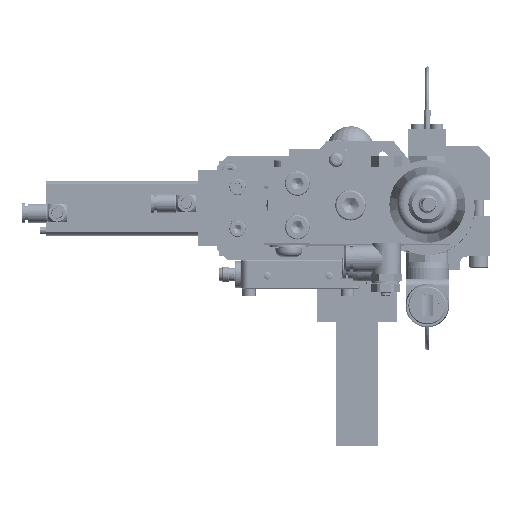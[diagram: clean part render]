
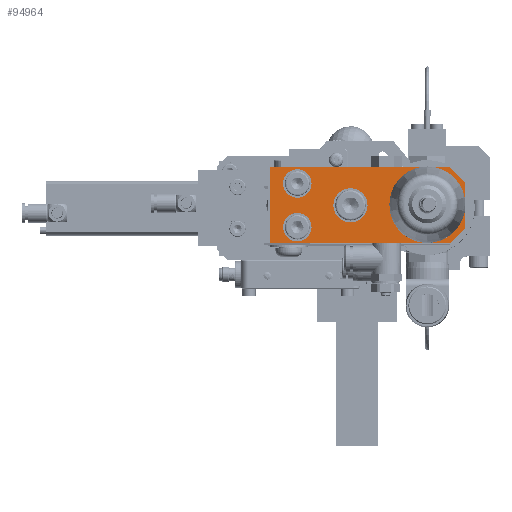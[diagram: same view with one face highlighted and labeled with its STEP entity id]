
A CAD part, top view. The second image highlights one B-rep face of the part: STEP entity #94964.
In plain terms, the highlighted planar face has unit normal (0, 0, 1).
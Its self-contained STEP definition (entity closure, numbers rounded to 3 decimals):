
#5670=FACE_BOUND('',#19369,.T.);
#5671=FACE_BOUND('',#19370,.T.);
#5672=FACE_BOUND('',#19371,.T.);
#5673=FACE_BOUND('',#19372,.T.);
#6317=CIRCLE('',#97334,15.959);
#6319=CIRCLE('',#97336,15.959);
#6324=CIRCLE('',#97344,7.5);
#6325=CIRCLE('',#97345,7.5);
#6330=CIRCLE('',#97352,7.5);
#6331=CIRCLE('',#97353,7.5);
#6336=CIRCLE('',#97360,9.);
#6337=CIRCLE('',#97361,9.);
#8407=CIRCLE('',#102037,18.);
#8408=CIRCLE('',#102038,18.);
#8409=CIRCLE('',#102039,18.);
#13849=FACE_OUTER_BOUND('',#19368,.T.);
#19368=EDGE_LOOP('',(#77806,#77807,#77808,#77809,#77810,#77811));
#19369=EDGE_LOOP('',(#77812,#77813));
#19370=EDGE_LOOP('',(#77814,#77815));
#19371=EDGE_LOOP('',(#77816,#77817));
#19372=EDGE_LOOP('',(#77818,#77819,#77820,#77821,#77822,#77823,#77824,#77825,
#77826));
#20838=LINE('',#129238,#27540);
#20844=LINE('',#129263,#27546);
#20864=LINE('',#129303,#27566);
#25777=LINE('',#311383,#32479);
#25781=LINE('',#311390,#32483);
#25783=LINE('',#311393,#32485);
#26207=LINE('',#314383,#32909);
#26208=LINE('',#314386,#32910);
#26209=LINE('',#314388,#32911);
#26210=LINE('',#314393,#32912);
#27540=VECTOR('',#104932,10.);
#27546=VECTOR('',#104954,10.);
#27566=VECTOR('',#104986,10.);
#32479=VECTOR('',#119953,10.);
#32483=VECTOR('',#119959,10.);
#32485=VECTOR('',#119963,10.);
#32909=VECTOR('',#121489,10.);
#32910=VECTOR('',#121492,10.);
#32911=VECTOR('',#121493,10.);
#32912=VECTOR('',#121498,10.);
#34354=VERTEX_POINT('',#129235);
#34355=VERTEX_POINT('',#129237);
#34366=VERTEX_POINT('',#129262);
#34380=VERTEX_POINT('',#129302);
#36493=VERTEX_POINT('',#291577);
#36494=VERTEX_POINT('',#291579);
#36495=VERTEX_POINT('',#291581);
#36496=VERTEX_POINT('',#291583);
#36507=VERTEX_POINT('',#291609);
#36508=VERTEX_POINT('',#291610);
#36513=VERTEX_POINT('',#291624);
#36514=VERTEX_POINT('',#291625);
#36519=VERTEX_POINT('',#291639);
#36520=VERTEX_POINT('',#291640);
#40751=VERTEX_POINT('',#311382);
#40753=VERTEX_POINT('',#311387);
#41189=VERTEX_POINT('',#314382);
#41190=VERTEX_POINT('',#314384);
#41191=VERTEX_POINT('',#314387);
#41192=VERTEX_POINT('',#314389);
#41193=VERTEX_POINT('',#314391);
#43511=EDGE_CURVE('',#34354,#34355,#20838,.T.);
#43523=EDGE_CURVE('',#34355,#34366,#20844,.T.);
#43543=EDGE_CURVE('',#34366,#34380,#20864,.T.);
#46636=EDGE_CURVE('',#36494,#36493,#6317,.T.);
#46638=EDGE_CURVE('',#36496,#36495,#6319,.T.);
#46650=EDGE_CURVE('',#36507,#36508,#6324,.T.);
#46651=EDGE_CURVE('',#36508,#36507,#6325,.T.);
#46657=EDGE_CURVE('',#36513,#36514,#6330,.T.);
#46658=EDGE_CURVE('',#36514,#36513,#6331,.T.);
#46664=EDGE_CURVE('',#36519,#36520,#6336,.T.);
#46665=EDGE_CURVE('',#36520,#36519,#6337,.T.);
#53064=EDGE_CURVE('',#34380,#40751,#25777,.T.);
#53068=EDGE_CURVE('',#40751,#40753,#25781,.T.);
#53070=EDGE_CURVE('',#40753,#34354,#25783,.T.);
#53796=EDGE_CURVE('',#36495,#41189,#26207,.T.);
#53797=EDGE_CURVE('',#41189,#41190,#8407,.T.);
#53798=EDGE_CURVE('',#41190,#36494,#26208,.T.);
#53799=EDGE_CURVE('',#36493,#41191,#26209,.T.);
#53800=EDGE_CURVE('',#41191,#41192,#8408,.T.);
#53801=EDGE_CURVE('',#41192,#41193,#8409,.T.);
#53802=EDGE_CURVE('',#41193,#36496,#26210,.T.);
#77806=ORIENTED_EDGE('',*,*,#53064,.F.);
#77807=ORIENTED_EDGE('',*,*,#43543,.F.);
#77808=ORIENTED_EDGE('',*,*,#43523,.F.);
#77809=ORIENTED_EDGE('',*,*,#43511,.F.);
#77810=ORIENTED_EDGE('',*,*,#53070,.F.);
#77811=ORIENTED_EDGE('',*,*,#53068,.F.);
#77812=ORIENTED_EDGE('',*,*,#46664,.T.);
#77813=ORIENTED_EDGE('',*,*,#46665,.T.);
#77814=ORIENTED_EDGE('',*,*,#46657,.T.);
#77815=ORIENTED_EDGE('',*,*,#46658,.T.);
#77816=ORIENTED_EDGE('',*,*,#46650,.T.);
#77817=ORIENTED_EDGE('',*,*,#46651,.T.);
#77818=ORIENTED_EDGE('',*,*,#53796,.T.);
#77819=ORIENTED_EDGE('',*,*,#53797,.T.);
#77820=ORIENTED_EDGE('',*,*,#53798,.T.);
#77821=ORIENTED_EDGE('',*,*,#46636,.T.);
#77822=ORIENTED_EDGE('',*,*,#53799,.T.);
#77823=ORIENTED_EDGE('',*,*,#53800,.T.);
#77824=ORIENTED_EDGE('',*,*,#53801,.T.);
#77825=ORIENTED_EDGE('',*,*,#53802,.T.);
#77826=ORIENTED_EDGE('',*,*,#46638,.T.);
#85687=PLANE('',#102036);
#94964=ADVANCED_FACE('',(#13849,#5670,#5671,#5672,#5673),#85687,.T.);
#97334=AXIS2_PLACEMENT_3D('',#291580,#108061,#108062);
#97336=AXIS2_PLACEMENT_3D('',#291584,#108065,#108066);
#97344=AXIS2_PLACEMENT_3D('',#291611,#108088,#108089);
#97345=AXIS2_PLACEMENT_3D('',#291612,#108090,#108091);
#97352=AXIS2_PLACEMENT_3D('',#291626,#108105,#108106);
#97353=AXIS2_PLACEMENT_3D('',#291627,#108107,#108108);
#97360=AXIS2_PLACEMENT_3D('',#291641,#108122,#108123);
#97361=AXIS2_PLACEMENT_3D('',#291642,#108124,#108125);
#102036=AXIS2_PLACEMENT_3D('',#314381,#121487,#121488);
#102037=AXIS2_PLACEMENT_3D('',#314385,#121490,#121491);
#102038=AXIS2_PLACEMENT_3D('',#314390,#121494,#121495);
#102039=AXIS2_PLACEMENT_3D('',#314392,#121496,#121497);
#104932=DIRECTION('',(-1.,0.,0.));
#104954=DIRECTION('',(0.,1.,0.));
#104986=DIRECTION('',(1.,0.,0.));
#108061=DIRECTION('center_axis',(0.,0.,
-1.));
#108062=DIRECTION('ref_axis',(1.,0.,0.));
#108065=DIRECTION('center_axis',(0.,0.,
-1.));
#108066=DIRECTION('ref_axis',(1.,0.,0.));
#108088=DIRECTION('center_axis',(0.,0.,
-1.));
#108089=DIRECTION('ref_axis',(-1.,0.,0.));
#108090=DIRECTION('center_axis',(0.,0.,
-1.));
#108091=DIRECTION('ref_axis',(-1.,0.,0.));
#108105=DIRECTION('center_axis',(0.,0.,
-1.));
#108106=DIRECTION('ref_axis',(-1.,0.,0.));
#108107=DIRECTION('center_axis',(0.,0.,
-1.));
#108108=DIRECTION('ref_axis',(-1.,0.,0.));
#108122=DIRECTION('center_axis',(0.,0.,
-1.));
#108123=DIRECTION('ref_axis',(-1.,0.,0.));
#108124=DIRECTION('center_axis',(0.,0.,
-1.));
#108125=DIRECTION('ref_axis',(-1.,0.,0.));
#119953=DIRECTION('',(0.707,-0.707,0.));
#119959=DIRECTION('',(0.,-1.,0.));
#119963=DIRECTION('',(-0.707,-0.707,0.));
#121487=DIRECTION('center_axis',(0.,0.,
1.));
#121488=DIRECTION('ref_axis',(-1.,0.,0.));
#121489=DIRECTION('',(1.,0.,0.));
#121490=DIRECTION('center_axis',(0.,0.,
-1.));
#121491=DIRECTION('ref_axis',(1.,0.,0.));
#121492=DIRECTION('',(-1.,0.,0.));
#121493=DIRECTION('',(-1.,0.,0.));
#121494=DIRECTION('center_axis',(0.,0.,
-1.));
#121495=DIRECTION('ref_axis',(1.,0.,0.));
#121496=DIRECTION('center_axis',(0.,0.,
-1.));
#121497=DIRECTION('ref_axis',(1.,0.,0.));
#121498=DIRECTION('',(1.,0.,0.));
#129235=CARTESIAN_POINT('',(12.,-20.,974.5));
#129237=CARTESIAN_POINT('',(-83.,-20.,974.5));
#129238=CARTESIAN_POINT('',(20.,-20.,974.5));
#129262=CARTESIAN_POINT('',(-83.,20.,974.5));
#129263=CARTESIAN_POINT('',(-83.,-20.,974.5));
#129302=CARTESIAN_POINT('',(12.,20.,974.5));
#129303=CARTESIAN_POINT('',(-83.,20.,974.5));
#291577=CARTESIAN_POINT('',(-5.447,-15.,974.5));
#291579=CARTESIAN_POINT('',(5.447,-15.,974.5));
#291580=CARTESIAN_POINT('Origin',(0.,0.,
974.5));
#291581=CARTESIAN_POINT('',(5.447,15.,974.5));
#291583=CARTESIAN_POINT('',(-5.447,15.,974.5));
#291584=CARTESIAN_POINT('Origin',(0.,0.,
974.5));
#291609=CARTESIAN_POINT('',(-76.,11.5,974.5));
#291610=CARTESIAN_POINT('',(-61.,11.5,974.5));
#291611=CARTESIAN_POINT('Origin',(-68.5,11.5,974.5));
#291612=CARTESIAN_POINT('Origin',(-68.5,11.5,974.5));
#291624=CARTESIAN_POINT('',(-76.,-11.5,974.5));
#291625=CARTESIAN_POINT('',(-61.,-11.5,974.5));
#291626=CARTESIAN_POINT('Origin',(-68.5,-11.5,974.5));
#291627=CARTESIAN_POINT('Origin',(-68.5,-11.5,974.5));
#291639=CARTESIAN_POINT('',(-49.5,0.,974.5));
#291640=CARTESIAN_POINT('',(-31.5,0.,974.5));
#291641=CARTESIAN_POINT('Origin',(-40.5,0.,
974.5));
#291642=CARTESIAN_POINT('Origin',(-40.5,0.,
974.5));
#311382=CARTESIAN_POINT('',(20.,12.,974.5));
#311383=CARTESIAN_POINT('',(8.125,23.875,974.5));
#311387=CARTESIAN_POINT('',(20.,-12.,974.5));
#311390=CARTESIAN_POINT('',(20.,20.,974.5));
#311393=CARTESIAN_POINT('',(8.125,-23.875,974.5));
#314381=CARTESIAN_POINT('Origin',(-31.5,0.,974.5));
#314382=CARTESIAN_POINT('',(9.95,15.,974.5));
#314383=CARTESIAN_POINT('',(-10.775,15.,974.5));
#314384=CARTESIAN_POINT('',(9.95,-15.,974.5));
#314385=CARTESIAN_POINT('Origin',(0.,0.,
974.5));
#314386=CARTESIAN_POINT('',(-20.725,-15.,974.5));
#314387=CARTESIAN_POINT('',(-9.95,-15.,974.5));
#314388=CARTESIAN_POINT('',(-20.725,-15.,974.5));
#314389=CARTESIAN_POINT('',(-18.,0.,974.5));
#314390=CARTESIAN_POINT('Origin',(0.,0.,
974.5));
#314391=CARTESIAN_POINT('',(-9.95,15.,974.5));
#314392=CARTESIAN_POINT('Origin',(0.,0.,
974.5));
#314393=CARTESIAN_POINT('',(-10.775,15.,974.5));
